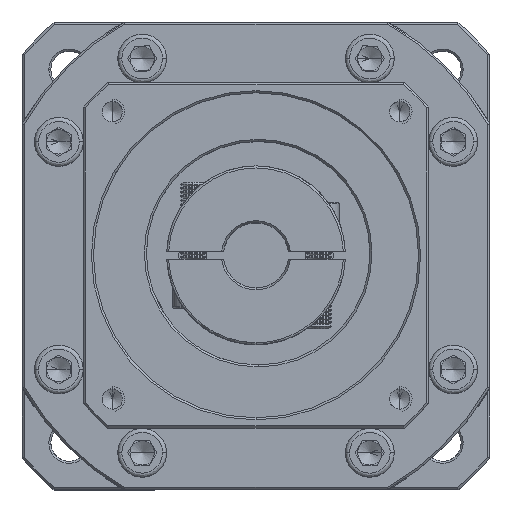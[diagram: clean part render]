
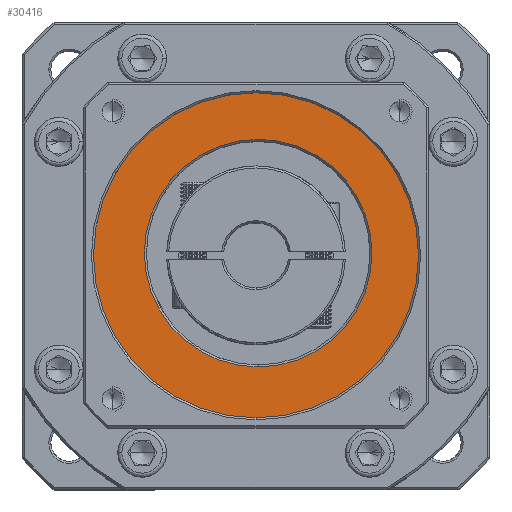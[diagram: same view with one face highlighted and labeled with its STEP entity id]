
A CAD part, top view. The second image highlights one B-rep face of the part: STEP entity #30416.
In plain terms, the highlighted planar face has unit normal (0, 0, 1).
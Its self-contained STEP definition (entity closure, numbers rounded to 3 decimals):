
#1855 = EDGE_CURVE ( 'NONE', #75760, #97788, #121677, .T. ) ;
#2635 = VERTEX_POINT ( 'NONE', #103532 ) ;
#4788 = AXIS2_PLACEMENT_3D ( 'NONE', #78856, #69082, #89493 ) ;
#5429 = PLANE ( 'NONE',  #77098 ) ;
#5536 = DIRECTION ( 'NONE',  ( 0., -1., 0. ) ) ;
#8422 = AXIS2_PLACEMENT_3D ( 'NONE', #108810, #128914, #55946 ) ;
#19130 = AXIS2_PLACEMENT_3D ( 'NONE', #46191, #57835, #120570 ) ;
#27268 = EDGE_CURVE ( 'NONE', #97788, #75760, #31510, .T. ) ;
#30416 = ADVANCED_FACE ( 'NONE', ( #137791, #56081 ), #5429, .T. ) ;
#31034 = ORIENTED_EDGE ( 'NONE', *, *, #133715, .T. ) ;
#31435 = CARTESIAN_POINT ( 'NONE',  ( 71.758, 102.033, -19.515 ) ) ;
#31510 = CIRCLE ( 'NONE', #115670, 40. ) ;
#35829 = ORIENTED_EDGE ( 'NONE', *, *, #119231, .T. ) ;
#39192 = VERTEX_POINT ( 'NONE', #92837 ) ;
#46191 = CARTESIAN_POINT ( 'NONE',  ( 71.758, 62.033, -19.515 ) ) ;
#48161 = ORIENTED_EDGE ( 'NONE', *, *, #27268, .T. ) ;
#49346 = DIRECTION ( 'NONE',  ( 0., 0., 1. ) ) ;
#55946 = DIRECTION ( 'NONE',  ( 0., -1., 0. ) ) ;
#56081 = FACE_BOUND ( 'NONE', #60424, .T. ) ;
#57835 = DIRECTION ( 'NONE',  ( 0., 0., 1. ) ) ;
#60424 = EDGE_LOOP ( 'NONE', ( #35829, #31034 ) ) ;
#69082 = DIRECTION ( 'NONE',  ( 0., 0., -1. ) ) ;
#75760 = VERTEX_POINT ( 'NONE', #31435 ) ;
#77098 = AXIS2_PLACEMENT_3D ( 'NONE', #79911, #123139, #101672 ) ;
#78856 = CARTESIAN_POINT ( 'NONE',  ( 72.292, 62.575, -19.515 ) ) ;
#79911 = CARTESIAN_POINT ( 'NONE',  ( 71.758, 62.033, -19.515 ) ) ;
#88944 = CARTESIAN_POINT ( 'NONE',  ( 71.758, 22.033, -19.515 ) ) ;
#89493 = DIRECTION ( 'NONE',  ( 0., -1., 0. ) ) ;
#91842 = CIRCLE ( 'NONE', #8422, 28. ) ;
#92461 = EDGE_LOOP ( 'NONE', ( #48161, #111178 ) ) ;
#92837 = CARTESIAN_POINT ( 'NONE',  ( 72.292, 34.575, -19.515 ) ) ;
#97788 = VERTEX_POINT ( 'NONE', #88944 ) ;
#101672 = DIRECTION ( 'NONE',  ( 0., -1., 0. ) ) ;
#103532 = CARTESIAN_POINT ( 'NONE',  ( 72.292, 90.575, -19.515 ) ) ;
#108810 = CARTESIAN_POINT ( 'NONE',  ( 72.292, 62.575, -19.515 ) ) ;
#111178 = ORIENTED_EDGE ( 'NONE', *, *, #1855, .T. ) ;
#112012 = CARTESIAN_POINT ( 'NONE',  ( 71.758, 62.033, -19.515 ) ) ;
#115670 = AXIS2_PLACEMENT_3D ( 'NONE', #112012, #49346, #5536 ) ;
#119231 = EDGE_CURVE ( 'NONE', #39192, #2635, #91842, .T. ) ;
#120570 = DIRECTION ( 'NONE',  ( 0., -1., 0. ) ) ;
#121677 = CIRCLE ( 'NONE', #19130, 40. ) ;
#123139 = DIRECTION ( 'NONE',  ( 0., 0., 1. ) ) ;
#125128 = CIRCLE ( 'NONE', #4788, 28. ) ;
#128914 = DIRECTION ( 'NONE',  ( 0., 0., -1. ) ) ;
#133715 = EDGE_CURVE ( 'NONE', #2635, #39192, #125128, .T. ) ;
#137791 = FACE_OUTER_BOUND ( 'NONE', #92461, .T. ) ;
